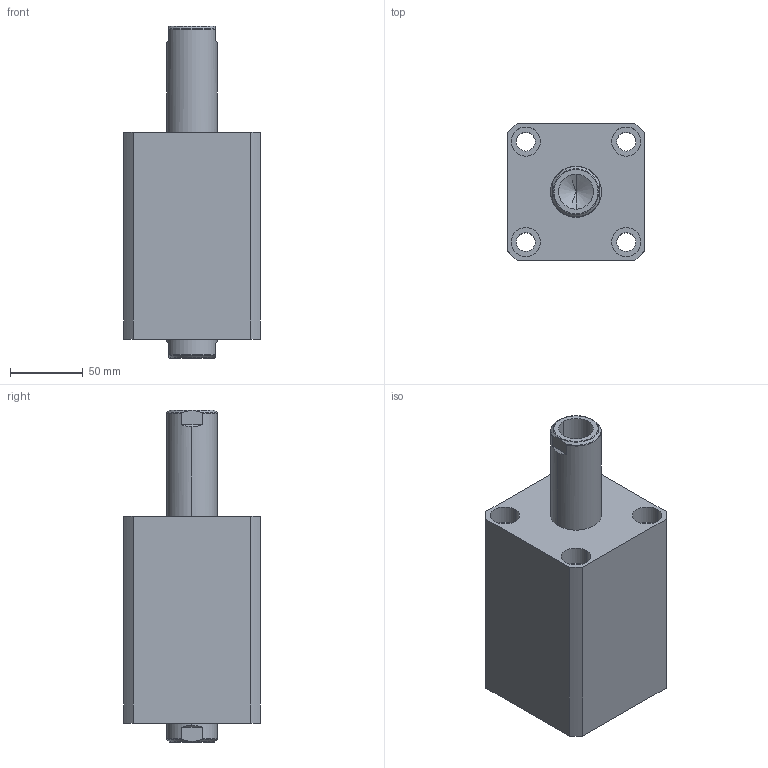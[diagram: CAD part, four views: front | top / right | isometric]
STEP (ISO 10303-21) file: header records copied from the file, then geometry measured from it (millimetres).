
FILE_DESCRIPTION (( 'STEP AP214' ), '1' );
FILE_NAME ('chtb-sw63x60n_asm.STEP', '2018-05-12T02:17:53', ( 'Windows' ), ( 'Microsoft' ), 'SwSTEP 2.0', 'SolidWorks 2015', '' );
FILE_SCHEMA (( 'AUTOMOTIVE_DESIGN' ));
Length unit declared in the file: millimetre
Products named in the file (4): CHTB-SW63X60NHSG; CHTB-SW63X60NBT; CHTB-63QG; chtb-sw63x60n_asm
Assembly tree (3 placements, depth 2):
  chtb-sw63x60n_asm
    CHTB-63QG
    CHTB-SW63X60NBT
    CHTB-SW63X60NHSG
Bounding box: 94 x 94 x 228 mm (x, y, z)
Volume: 1076256.9 mm3; surface area: 175576.1 mm2
Topology: 3 solids, 3 shells, 184 faces, 515 edges, 349 vertices
Faces by surface type: cylinder 106, plane 38, cone 16, bspline 12, torus 12
Entity records: 18385 total; most frequent: CARTESIAN_POINT 13775, ORIENTED_EDGE 1014, DIRECTION 814, EDGE_CURVE 507, VERTEX_POINT 349, AXIS2_PLACEMENT_3D 331, EDGE_LOOP 220, FACE_OUTER_BOUND 184
